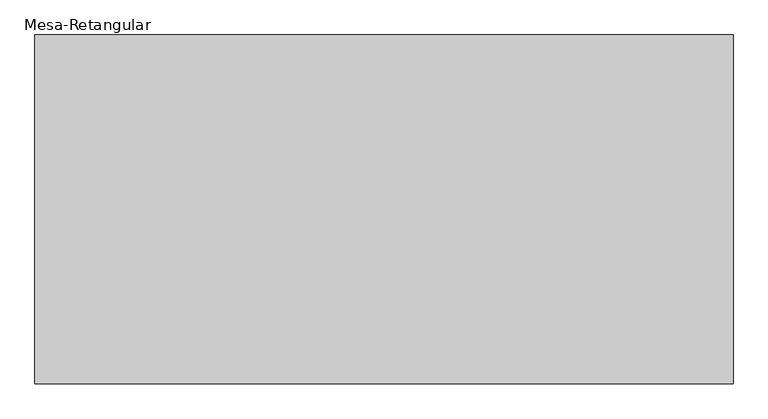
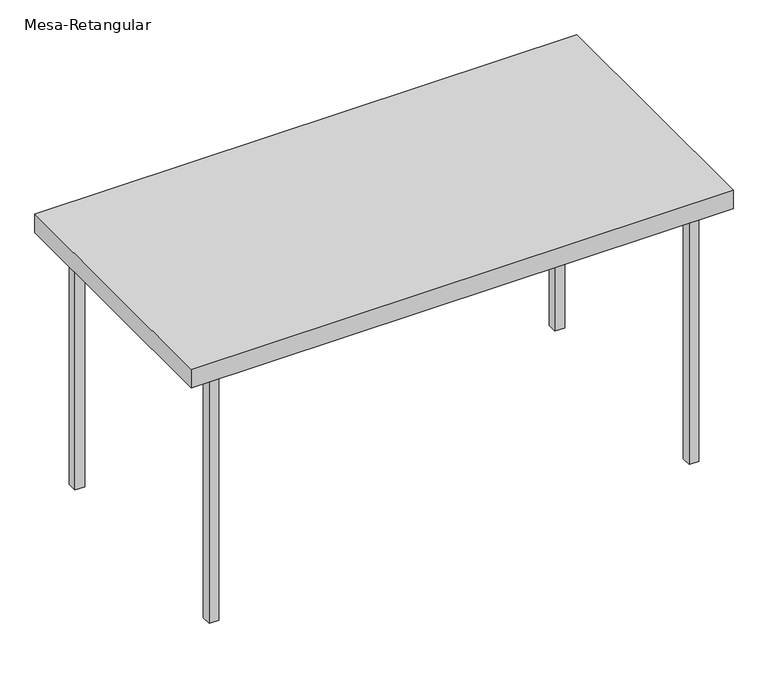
"""IFC4 building model written with IfcOpenShell, lengths in millimetres: furniture geometry, Mesa-Retangular : Mesa aço inox 70x140cm."""

from ifc_helpers import new_model, si_unit, frame, origin, origin_with_axes, place, context, project, spatial, polyline, outline, extrude, source, transform, mapped, element, save


def mesa_retangular_b4f445fa(model_context):
    return source(origin(), model_context, "Body", "SweptSolid", [
        extrude(outline(polyline([(-632.8946305, 288.2145104), (-632.8946305, 313.6145104), (-607.4946305, 313.6145104), (-607.4946305, 288.2145104), (-632.8946305, 288.2145104)])), origin_with_axes(), (0.0, 0.0, 1.0), 689.2),
        extrude(outline(polyline([(-632.8946305, -288.2145104), (-607.4946305, -288.2145104), (-607.4946305, -313.6145104), (-632.8946305, -313.6145104), (-632.8946305, -288.2145104)])), origin_with_axes(), (0.0, 0.0, 1.0), 689.2),
        extrude(outline(polyline([(632.8946305, 288.2145104), (607.4946305, 288.2145104), (607.4946305, 313.6145104), (632.8946305, 313.6145104), (632.8946305, 288.2145104)])), origin_with_axes(), (0.0, 0.0, 1.0), 689.2),
        extrude(outline(polyline([(632.8946305, -288.2145104), (632.8946305, -313.6145104), (607.4946305, -313.6145104), (607.4946305, -288.2145104), (632.8946305, -288.2145104)])), origin_with_axes(), (0.0, 0.0, 1.0), 689.2),
        extrude(outline(polyline([(700.0, 350.0), (700.0, -350.0), (-700.0, -350.0), (-700.0, 350.0), (700.0, 350.0)])), frame((0.0, 0.0, 689.2), z_axis=(0.0, 0.0, 1.0), x_axis=(1.0, 0.0, 0.0)), (0.0, 0.0, 1.0), 50.8),
    ])


if __name__ == "__main__":
    model = new_model("IFC4")
    model_context = context("Model", 3, world=origin())
    ifc_project = project(units=[si_unit("LENGTHUNIT", "METRE", prefix="MILLI")], contexts=[model_context])
    site = spatial("IfcSite", under=ifc_project)
    building = spatial("IfcBuilding", under=site)
    placement = place(None, origin())
    mesa_retangular_shape = mesa_retangular_b4f445fa(model_context)
    element("IfcFurniture", 1, ObjectType="Mesa-Retangular : Mesa aço inox 70x140cm", at=placement, inside=building, context=model_context, shape_type="MappedRepresentation", body=[
        mapped(mesa_retangular_shape, transform((0.0, 0.0, 0.0), x_axis=(1.0, 0.0, 0.0), y_axis=(0.0, 1.0, 0.0), z_axis=(0.0, 0.0, 1.0))),
    ])
    save(model, "model.ifc")
